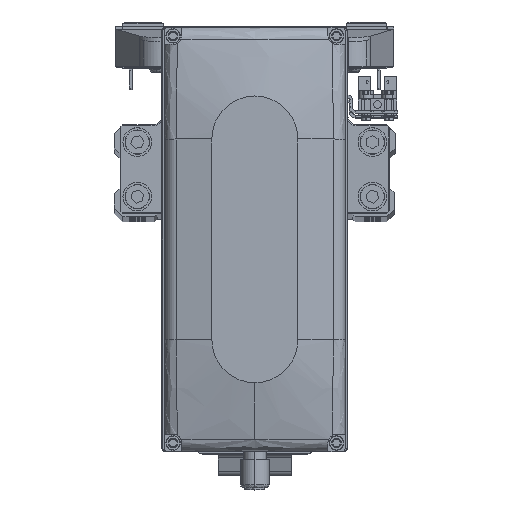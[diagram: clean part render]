
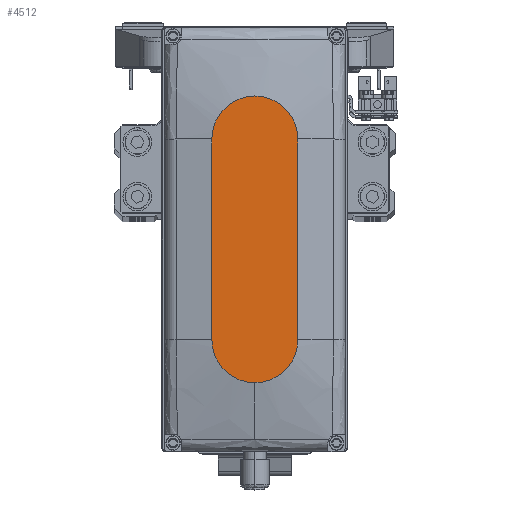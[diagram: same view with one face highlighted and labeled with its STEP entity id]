
A CAD part, top view. The second image highlights one B-rep face of the part: STEP entity #4512.
In plain terms, the highlighted planar face has unit normal (0, 0, 1).
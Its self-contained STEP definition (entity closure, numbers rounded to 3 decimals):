
#875 = CARTESIAN_POINT ( 'NONE',  ( -35., 15., 35. ) ) ;
#2486 = CIRCLE ( 'NONE', #29676, 15. ) ;
#3107 = FACE_OUTER_BOUND ( 'NONE', #46074, .T. ) ;
#3978 = AXIS2_PLACEMENT_3D ( 'NONE', #32774, #47651, #14288 ) ;
#4512 = ADVANCED_FACE ( 'NONE', ( #3107 ), #17934, .T. ) ;
#4899 = CARTESIAN_POINT ( 'NONE',  ( 35., 0., 35. ) ) ;
#5309 = CARTESIAN_POINT ( 'NONE',  ( 35., -15., 35. ) ) ;
#5976 = CIRCLE ( 'NONE', #33168, 15. ) ;
#6749 = CIRCLE ( 'NONE', #33941, 15. ) ;
#6880 = EDGE_CURVE ( 'NONE', #17990, #19592, #2486, .T. ) ;
#9450 = LINE ( 'NONE', #24274, #9987 ) ;
#9987 = VECTOR ( 'NONE', #39114, 1000. ) ;
#11134 = VERTEX_POINT ( 'NONE', #43659 ) ;
#13826 = DIRECTION ( 'NONE',  ( 0., 0., 1. ) ) ;
#14244 = DIRECTION ( 'NONE',  ( 1., 0., 0. ) ) ;
#14288 = DIRECTION ( 'NONE',  ( 1., 0., 0. ) ) ;
#15729 = DIRECTION ( 'NONE',  ( -1., 0., 0. ) ) ;
#17934 = PLANE ( 'NONE',  #3978 ) ;
#17990 = VERTEX_POINT ( 'NONE', #5309 ) ;
#18276 = EDGE_CURVE ( 'NONE', #11134, #26425, #34209, .T. ) ;
#19592 = VERTEX_POINT ( 'NONE', #31508 ) ;
#19734 = DIRECTION ( 'NONE',  ( 0., 0., 1. ) ) ;
#20389 = ORIENTED_EDGE ( 'NONE', *, *, #6880, .T. ) ;
#22755 = ORIENTED_EDGE ( 'NONE', *, *, #18276, .T. ) ;
#24248 = ORIENTED_EDGE ( 'NONE', *, *, #29831, .T. ) ;
#24274 = CARTESIAN_POINT ( 'NONE',  ( -35., -15., 35. ) ) ;
#26425 = VERTEX_POINT ( 'NONE', #30525 ) ;
#28643 = DIRECTION ( 'NONE',  ( 1., 0., 0. ) ) ;
#29286 = VECTOR ( 'NONE', #15729, 1000. ) ;
#29676 = AXIS2_PLACEMENT_3D ( 'NONE', #4899, #19734, #34583 ) ;
#29831 = EDGE_CURVE ( 'NONE', #37513, #17990, #9450, .T. ) ;
#30525 = CARTESIAN_POINT ( 'NONE',  ( -35., 15., 35. ) ) ;
#31508 = CARTESIAN_POINT ( 'NONE',  ( 50., 0., 35. ) ) ;
#32715 = CARTESIAN_POINT ( 'NONE',  ( -35., -15., 35. ) ) ;
#32725 = CARTESIAN_POINT ( 'NONE',  ( 35., 0., 35. ) ) ;
#32774 = CARTESIAN_POINT ( 'NONE',  ( 0., 0., 35. ) ) ;
#33168 = AXIS2_PLACEMENT_3D ( 'NONE', #32725, #47605, #14244 ) ;
#33941 = AXIS2_PLACEMENT_3D ( 'NONE', #47181, #13826, #28643 ) ;
#34209 = LINE ( 'NONE', #875, #29286 ) ;
#34583 = DIRECTION ( 'NONE',  ( 1., 0., 0. ) ) ;
#36988 = EDGE_CURVE ( 'NONE', #26425, #37513, #6749, .T. ) ;
#37513 = VERTEX_POINT ( 'NONE', #32715 ) ;
#38639 = EDGE_CURVE ( 'NONE', #19592, #11134, #5976, .T. ) ;
#39114 = DIRECTION ( 'NONE',  ( 1., 0., 0. ) ) ;
#41278 = ORIENTED_EDGE ( 'NONE', *, *, #36988, .T. ) ;
#43659 = CARTESIAN_POINT ( 'NONE',  ( 35., 15., 35. ) ) ;
#46074 = EDGE_LOOP ( 'NONE', ( #22755, #41278, #24248, #20389, #46346 ) ) ;
#46346 = ORIENTED_EDGE ( 'NONE', *, *, #38639, .T. ) ;
#47181 = CARTESIAN_POINT ( 'NONE',  ( -35., 0., 35. ) ) ;
#47605 = DIRECTION ( 'NONE',  ( 0., 0., 1. ) ) ;
#47651 = DIRECTION ( 'NONE',  ( 0., 0., 1. ) ) ;
